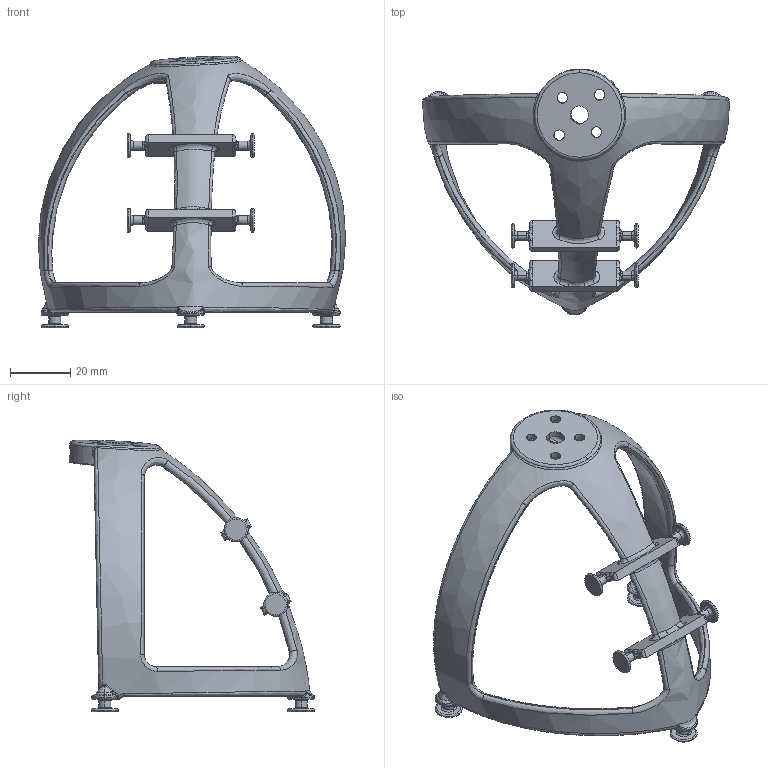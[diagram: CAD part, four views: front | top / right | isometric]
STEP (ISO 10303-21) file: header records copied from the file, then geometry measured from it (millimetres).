
FILE_DESCRIPTION (( 'STEP AP203' ), '1' );
FILE_NAME ('06-12-035-00 (Motor Mount).STEP', '2020-05-27T07:04:02', ( '' ), ( '' ), 'SwSTEP 2.0', 'SolidWorks 2014', '' );
FILE_SCHEMA (( 'CONFIG_CONTROL_DESIGN' ));
Length unit declared in the file: millimetre
Products named in the file (1): 06-12-035-00 (Motor Mount)
Bounding box: 101.77 x 81.31 x 90.03 mm (x, y, z)
Volume: 23150.2 mm3; surface area: 18340.5 mm2
Topology: 1 solids, 1 shells, 497 faces, 1206 edges, 710 vertices
Faces by surface type: bspline 239, cylinder 108, torus 85, plane 56, cone 7, sphere 2
Entity records: 39684 total; most frequent: CARTESIAN_POINT 29889, ORIENTED_EDGE 2388, DIRECTION 1549, EDGE_CURVE 1194, VERTEX_POINT 710, AXIS2_PLACEMENT_3D 692, B_SPLINE_CURVE_WITH_KNOTS 547, EDGE_LOOP 528
